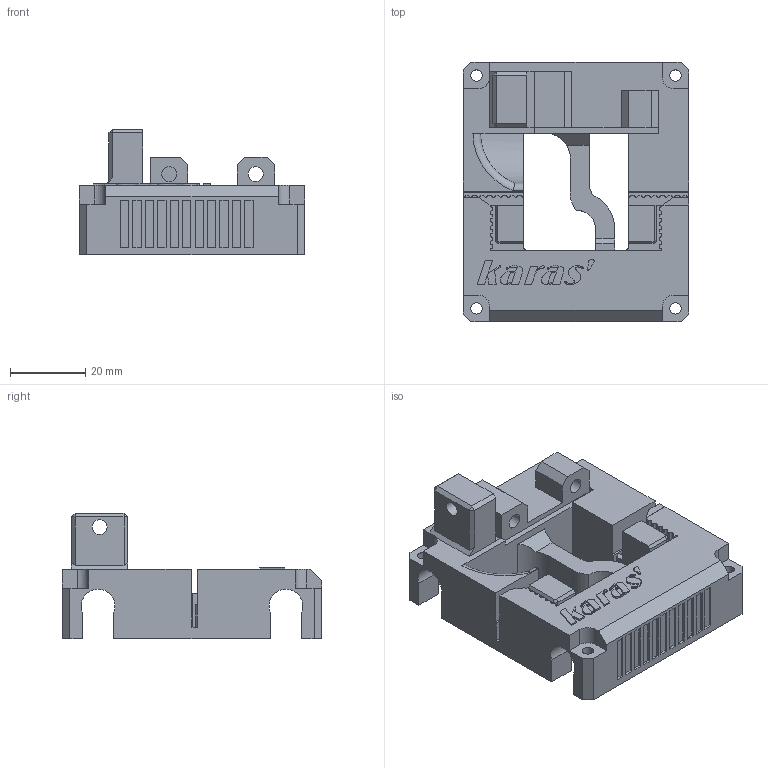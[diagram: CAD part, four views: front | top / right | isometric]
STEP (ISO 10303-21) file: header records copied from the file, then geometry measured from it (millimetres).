
FILE_DESCRIPTION(('STEP AP214'), '1');
FILE_NAME('27,10 âåðõíÿÿ ÷àñòü', '', ('UNSPECIFIED'), ('UNSPECIFIED'), 'C3D Converter', 'C3D Toolkit', '');
FILE_SCHEMA(('AUTOMOTIVE_DESIGN { 1 0 10303 214 3 1 1}'));
Length unit declared in the file: millimetre
Bounding box: 60 x 69 x 33.5 mm (x, y, z)
Volume: 38479.6 mm3; surface area: 21458.1 mm2
Topology: 1 solids, 1 shells, 464 faces, 1303 edges, 858 vertices
Faces by surface type: plane 252, extrusion 108, cylinder 101, cone 2, torus 1
Full cylindrical faces by diameter (mm): 3 x4, 4 x3
Entity records: 18880 total; most frequent: CARTESIAN_POINT 3424, ORIENTED_EDGE 2592, DIRECTION 2087, EDGE_CURVE 1296, VECTOR 981, LINE 873, VERTEX_POINT 858, AXIS2_PLACEMENT_3D 553
